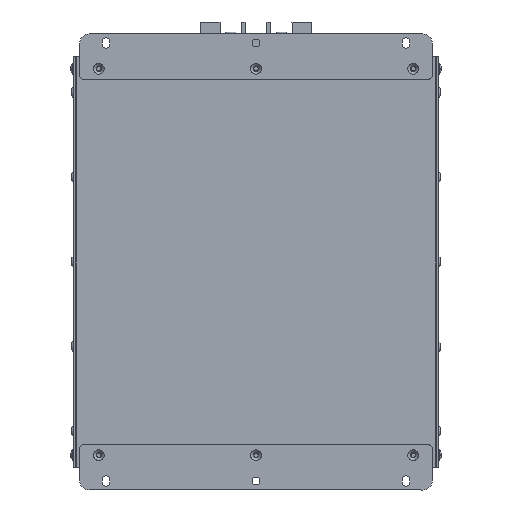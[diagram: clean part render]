
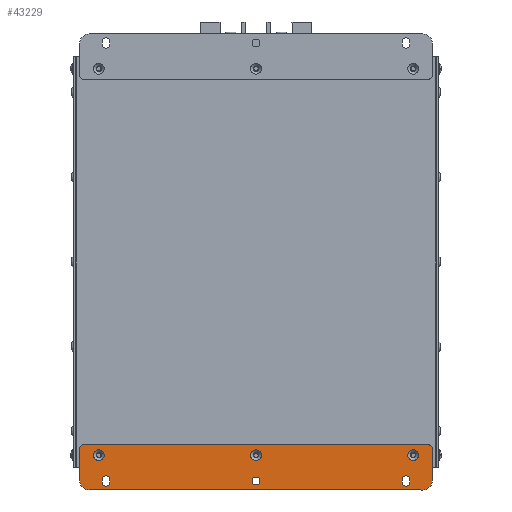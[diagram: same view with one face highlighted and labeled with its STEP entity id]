
A CAD part, front view. The second image highlights one B-rep face of the part: STEP entity #43229.
In plain terms, the highlighted planar face has unit normal (0, -1, 0) as drawn and (0, 1, 0) by its records, which use the part's own axes.
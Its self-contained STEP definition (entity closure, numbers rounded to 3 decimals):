
#4175=FACE_BOUND('',#8118,.T.);
#4176=FACE_BOUND('',#8119,.T.);
#4177=FACE_BOUND('',#8120,.T.);
#4178=FACE_BOUND('',#8121,.T.);
#4179=FACE_BOUND('',#8122,.T.);
#4180=FACE_BOUND('',#8123,.T.);
#4545=PLANE('',#45759);
#5730=FACE_OUTER_BOUND('',#8117,.T.);
#8117=EDGE_LOOP('',(#30312,#30313,#30314,#30315,#30316,#30317,#30318,#30319));
#8118=EDGE_LOOP('',(#30320));
#8119=EDGE_LOOP('',(#30321,#30322,#30323,#30324));
#8120=EDGE_LOOP('',(#30325));
#8121=EDGE_LOOP('',(#30326,#30327,#30328,#30329));
#8122=EDGE_LOOP('',(#30330));
#8123=EDGE_LOOP('',(#30331));
#10874=LINE('',#61799,#14330);
#10875=LINE('',#61803,#14331);
#10876=LINE('',#61807,#14332);
#10877=LINE('',#61810,#14333);
#10878=LINE('',#61817,#14334);
#10879=LINE('',#61820,#14335);
#10880=LINE('',#61827,#14336);
#10881=LINE('',#61830,#14337);
#14330=VECTOR('',#49961,10.);
#14331=VECTOR('',#49964,10.);
#14332=VECTOR('',#49967,10.);
#14333=VECTOR('',#49970,10.);
#14334=VECTOR('',#49975,10.);
#14335=VECTOR('',#49978,10.);
#14336=VECTOR('',#49983,10.);
#14337=VECTOR('',#49986,10.);
#17785=CIRCLE('',#45757,4.55);
#17787=CIRCLE('',#45760,8.);
#17788=CIRCLE('',#45761,8.);
#17789=CIRCLE('',#45762,4.);
#17790=CIRCLE('',#45763,4.);
#17791=CIRCLE('',#45764,4.55);
#17792=CIRCLE('',#45765,3.3);
#17793=CIRCLE('',#45766,3.3);
#17794=CIRCLE('',#45767,3.3);
#17795=CIRCLE('',#45768,3.3);
#17796=CIRCLE('',#45769,3.3);
#17797=CIRCLE('',#45770,4.55);
#19670=VERTEX_POINT('',#61789);
#19672=VERTEX_POINT('',#61795);
#19673=VERTEX_POINT('',#61796);
#19674=VERTEX_POINT('',#61798);
#19675=VERTEX_POINT('',#61800);
#19676=VERTEX_POINT('',#61802);
#19677=VERTEX_POINT('',#61804);
#19678=VERTEX_POINT('',#61806);
#19679=VERTEX_POINT('',#61808);
#19680=VERTEX_POINT('',#61811);
#19681=VERTEX_POINT('',#61813);
#19682=VERTEX_POINT('',#61814);
#19683=VERTEX_POINT('',#61816);
#19684=VERTEX_POINT('',#61818);
#19685=VERTEX_POINT('',#61821);
#19686=VERTEX_POINT('',#61823);
#19687=VERTEX_POINT('',#61824);
#19688=VERTEX_POINT('',#61826);
#19689=VERTEX_POINT('',#61828);
#19690=VERTEX_POINT('',#61831);
#23860=EDGE_CURVE('',#19670,#19670,#17785,.T.);
#23863=EDGE_CURVE('',#19672,#19673,#17787,.T.);
#23864=EDGE_CURVE('',#19673,#19674,#10874,.T.);
#23865=EDGE_CURVE('',#19674,#19675,#17788,.T.);
#23866=EDGE_CURVE('',#19675,#19676,#10875,.T.);
#23867=EDGE_CURVE('',#19676,#19677,#17789,.T.);
#23868=EDGE_CURVE('',#19677,#19678,#10876,.T.);
#23869=EDGE_CURVE('',#19678,#19679,#17790,.T.);
#23870=EDGE_CURVE('',#19679,#19672,#10877,.T.);
#23871=EDGE_CURVE('',#19680,#19680,#17791,.T.);
#23872=EDGE_CURVE('',#19681,#19682,#17792,.T.);
#23873=EDGE_CURVE('',#19682,#19683,#10878,.T.);
#23874=EDGE_CURVE('',#19683,#19684,#17793,.T.);
#23875=EDGE_CURVE('',#19684,#19681,#10879,.T.);
#23876=EDGE_CURVE('',#19685,#19685,#17794,.T.);
#23877=EDGE_CURVE('',#19686,#19687,#17795,.T.);
#23878=EDGE_CURVE('',#19687,#19688,#10880,.T.);
#23879=EDGE_CURVE('',#19688,#19689,#17796,.T.);
#23880=EDGE_CURVE('',#19689,#19686,#10881,.T.);
#23881=EDGE_CURVE('',#19690,#19690,#17797,.T.);
#30312=ORIENTED_EDGE('',*,*,#23863,.T.);
#30313=ORIENTED_EDGE('',*,*,#23864,.T.);
#30314=ORIENTED_EDGE('',*,*,#23865,.T.);
#30315=ORIENTED_EDGE('',*,*,#23866,.T.);
#30316=ORIENTED_EDGE('',*,*,#23867,.T.);
#30317=ORIENTED_EDGE('',*,*,#23868,.T.);
#30318=ORIENTED_EDGE('',*,*,#23869,.T.);
#30319=ORIENTED_EDGE('',*,*,#23870,.T.);
#30320=ORIENTED_EDGE('',*,*,#23871,.F.);
#30321=ORIENTED_EDGE('',*,*,#23872,.T.);
#30322=ORIENTED_EDGE('',*,*,#23873,.T.);
#30323=ORIENTED_EDGE('',*,*,#23874,.T.);
#30324=ORIENTED_EDGE('',*,*,#23875,.T.);
#30325=ORIENTED_EDGE('',*,*,#23876,.T.);
#30326=ORIENTED_EDGE('',*,*,#23877,.T.);
#30327=ORIENTED_EDGE('',*,*,#23878,.T.);
#30328=ORIENTED_EDGE('',*,*,#23879,.T.);
#30329=ORIENTED_EDGE('',*,*,#23880,.T.);
#30330=ORIENTED_EDGE('',*,*,#23881,.F.);
#30331=ORIENTED_EDGE('',*,*,#23860,.F.);
#43229=ADVANCED_FACE('',(#5730,#4175,#4176,#4177,#4178,#4179,#4180),#4545,
 .T.);
#45757=AXIS2_PLACEMENT_3D('',#61790,#49952,#49953);
#45759=AXIS2_PLACEMENT_3D('',#61794,#49957,#49958);
#45760=AXIS2_PLACEMENT_3D('',#61797,#49959,#49960);
#45761=AXIS2_PLACEMENT_3D('',#61801,#49962,#49963);
#45762=AXIS2_PLACEMENT_3D('',#61805,#49965,#49966);
#45763=AXIS2_PLACEMENT_3D('',#61809,#49968,#49969);
#45764=AXIS2_PLACEMENT_3D('',#61812,#49971,#49972);
#45765=AXIS2_PLACEMENT_3D('',#61815,#49973,#49974);
#45766=AXIS2_PLACEMENT_3D('',#61819,#49976,#49977);
#45767=AXIS2_PLACEMENT_3D('',#61822,#49979,#49980);
#45768=AXIS2_PLACEMENT_3D('',#61825,#49981,#49982);
#45769=AXIS2_PLACEMENT_3D('',#61829,#49984,#49985);
#45770=AXIS2_PLACEMENT_3D('',#61832,#49987,#49988);
#49952=DIRECTION('center_axis',(0.,1.,0.));
#49953=DIRECTION('ref_axis',(1.,0.,0.));
#49957=DIRECTION('center_axis',(0.,1.,0.));
#49958=DIRECTION('ref_axis',(0.,0.,1.));
#49959=DIRECTION('center_axis',(0.,1.,0.));
#49960=DIRECTION('ref_axis',(-1.,0.,0.));
#49961=DIRECTION('',(1.,0.,0.));
#49962=DIRECTION('center_axis',(0.,1.,0.));
#49963=DIRECTION('ref_axis',(0.,0.,1.));
#49964=DIRECTION('',(0.,0.,-1.));
#49965=DIRECTION('center_axis',(0.,1.,0.));
#49966=DIRECTION('ref_axis',(1.,0.,0.));
#49967=DIRECTION('',(-1.,0.,0.));
#49968=DIRECTION('center_axis',(0.,1.,0.));
#49969=DIRECTION('ref_axis',(0.,0.,-1.));
#49970=DIRECTION('',(0.,0.,1.));
#49971=DIRECTION('center_axis',(0.,1.,0.));
#49972=DIRECTION('ref_axis',(1.,0.,0.));
#49973=DIRECTION('center_axis',(0.,-1.,0.));
#49974=DIRECTION('ref_axis',(-1.,0.,0.));
#49975=DIRECTION('',(0.,0.,1.));
#49976=DIRECTION('center_axis',(0.,-1.,0.));
#49977=DIRECTION('ref_axis',(1.,0.,0.));
#49978=DIRECTION('',(0.,0.,-1.));
#49979=DIRECTION('center_axis',(0.,-1.,0.));
#49980=DIRECTION('ref_axis',(1.,0.,0.));
#49981=DIRECTION('center_axis',(0.,-1.,0.));
#49982=DIRECTION('ref_axis',(-1.,0.,0.));
#49983=DIRECTION('',(0.,0.,1.));
#49984=DIRECTION('center_axis',(0.,-1.,0.));
#49985=DIRECTION('ref_axis',(1.,0.,0.));
#49986=DIRECTION('',(0.,0.,-1.));
#49987=DIRECTION('center_axis',(0.,1.,0.));
#49988=DIRECTION('ref_axis',(1.,0.,0.));
#61789=CARTESIAN_POINT('',(-287.265,3.,-77.725));
#61790=CARTESIAN_POINT('Origin',(-282.715,3.,-77.725));
#61794=CARTESIAN_POINT('Origin',(-151.715,3.,-67.725));
#61795=CARTESIAN_POINT('',(-298.715,3.,-56.725));
#61796=CARTESIAN_POINT('',(-290.715,3.,-48.725));
#61797=CARTESIAN_POINT('Origin',(-290.715,3.,-56.725));
#61798=CARTESIAN_POINT('',(-12.715,3.,-48.725));
#61799=CARTESIAN_POINT('',(-290.715,3.,-48.725));
#61800=CARTESIAN_POINT('',(-4.715,3.,-56.725));
#61801=CARTESIAN_POINT('Origin',(-12.715,3.,-56.725));
#61802=CARTESIAN_POINT('',(-4.715,3.,-82.725));
#61803=CARTESIAN_POINT('',(-4.715,3.,-56.725));
#61804=CARTESIAN_POINT('',(-8.715,3.,-86.725));
#61805=CARTESIAN_POINT('Origin',(-8.715,3.,-82.725));
#61806=CARTESIAN_POINT('',(-294.715,3.,-86.725));
#61807=CARTESIAN_POINT('',(-8.715,3.,-86.725));
#61808=CARTESIAN_POINT('',(-298.715,3.,-82.725));
#61809=CARTESIAN_POINT('Origin',(-294.715,3.,-82.725));
#61810=CARTESIAN_POINT('',(-298.715,3.,-82.725));
#61811=CARTESIAN_POINT('',(-156.265,3.,-77.725));
#61812=CARTESIAN_POINT('Origin',(-151.715,3.,-77.725));
#61813=CARTESIAN_POINT('',(-30.015,3.,-57.225));
#61814=CARTESIAN_POINT('',(-23.415,3.,-57.225));
#61815=CARTESIAN_POINT('Origin',(-26.715,3.,-57.225));
#61816=CARTESIAN_POINT('',(-23.415,3.,-55.225));
#61817=CARTESIAN_POINT('',(-23.415,3.,-61.475));
#61818=CARTESIAN_POINT('',(-30.015,3.,-55.225));
#61819=CARTESIAN_POINT('Origin',(-26.715,3.,-55.225));
#61820=CARTESIAN_POINT('',(-30.015,3.,-62.475));
#61821=CARTESIAN_POINT('',(-155.015,3.,-56.225));
#61822=CARTESIAN_POINT('Origin',(-151.715,3.,-56.225));
#61823=CARTESIAN_POINT('',(-280.015,3.,-57.225));
#61824=CARTESIAN_POINT('',(-273.415,3.,-57.225));
#61825=CARTESIAN_POINT('Origin',(-276.715,3.,-57.225));
#61826=CARTESIAN_POINT('',(-273.415,3.,-55.225));
#61827=CARTESIAN_POINT('',(-273.415,3.,-61.475));
#61828=CARTESIAN_POINT('',(-280.015,3.,-55.225));
#61829=CARTESIAN_POINT('Origin',(-276.715,3.,-55.225));
#61830=CARTESIAN_POINT('',(-280.015,3.,-62.475));
#61831=CARTESIAN_POINT('',(-25.265,3.,-77.725));
#61832=CARTESIAN_POINT('Origin',(-20.715,3.,-77.725));
